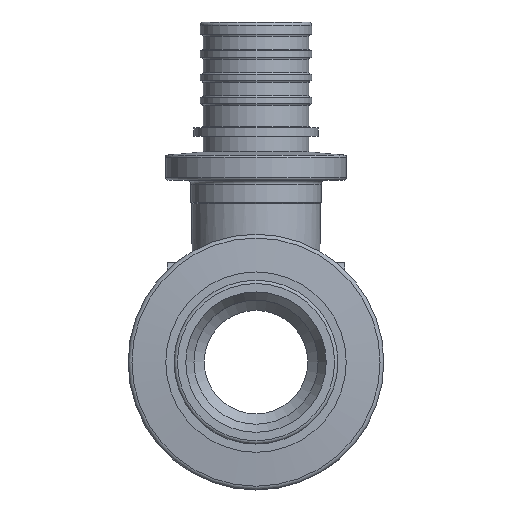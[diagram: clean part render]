
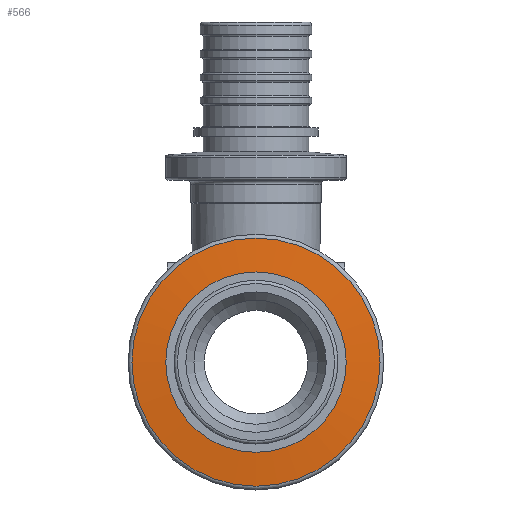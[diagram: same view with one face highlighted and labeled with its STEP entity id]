
A CAD part, front view. The second image highlights one B-rep face of the part: STEP entity #566.
In plain terms, the highlighted conical face has half-angle 85 degrees and reference radius 12.653 mm.
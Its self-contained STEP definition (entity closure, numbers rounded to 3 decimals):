
#566=ADVANCED_FACE('',(#4258,#4260),#4262,.T.);
#4258=FACE_OUTER_BOUND('',#4259,.T.);
#4259=EDGE_LOOP('',(#7294));
#4260=FACE_OUTER_BOUND('',#4261,.T.);
#4261=EDGE_LOOP('',(#7295));
#4262=CONICAL_SURFACE('',#4263,12.653,1.484);
#4263=AXIS2_PLACEMENT_3D('',#4264,#4265,#4266);
#4264=CARTESIAN_POINT('',(0.,-22.545,0.));
#4265=DIRECTION('',(0.,1.,0.));
#4266=DIRECTION('',(-1.,0.,0.));
#7294=ORIENTED_EDGE('',*,*,#9556,.T.);
#7295=ORIENTED_EDGE('',*,*,#9557,.T.);
#9556=EDGE_CURVE('',#10581,#10581,#10582,.T.);
#9557=EDGE_CURVE('',#10583,#10583,#10584,.F.);
#10581=VERTEX_POINT('',#12587);
#10582=CIRCLE('',#12588,14.994);
#10583=VERTEX_POINT('',#12592);
#10584=CIRCLE('',#12593,10.313);
#12587=CARTESIAN_POINT('',(14.994,-22.34,0.));
#12588=AXIS2_PLACEMENT_3D('',#12589,#12590,#12591);
#12589=CARTESIAN_POINT('',(0.,-22.34,0.));
#12590=DIRECTION('',(0.,-1.,0.));
#12591=DIRECTION('',(1.,0.,0.));
#12592=CARTESIAN_POINT('',(10.313,-22.749,0.));
#12593=AXIS2_PLACEMENT_3D('',#12594,#12595,#12596);
#12594=CARTESIAN_POINT('',(0.,-22.749,0.));
#12595=DIRECTION('',(0.,-1.,0.));
#12596=DIRECTION('',(1.,0.,0.));
